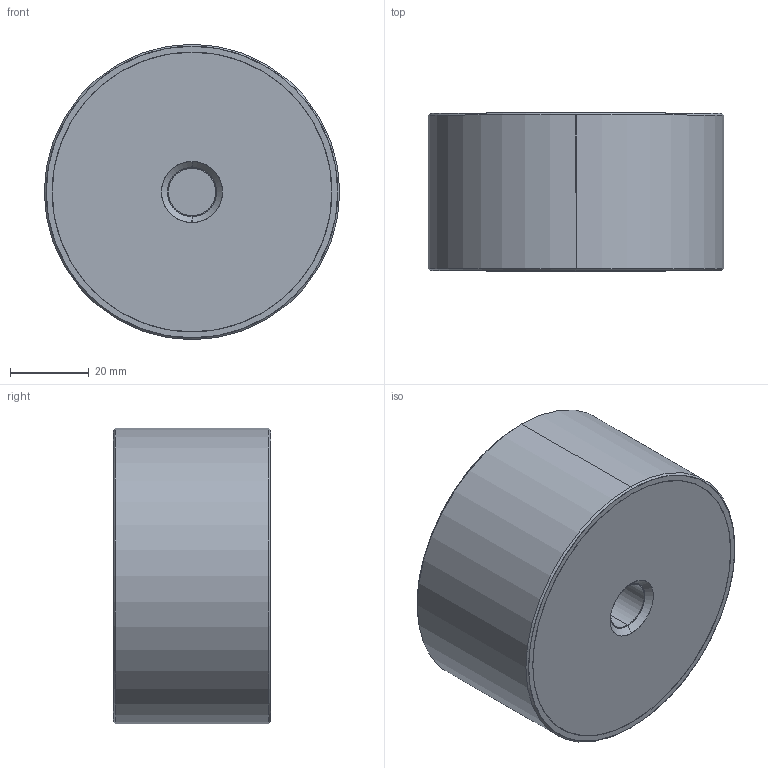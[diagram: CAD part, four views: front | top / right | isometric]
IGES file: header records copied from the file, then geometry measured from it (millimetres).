
Start section: SolidWorks IGES file using analytic representation for surfaces
Global section: file name: E:\WIXROYD 20180701\61080_v2\61080_v2_20180409_IGES\61080.W0751.igs; native system: SolidWorks 2017; preprocessor: SolidWorks 2017; author: liam_; date: 180716.214610; units: millimetre
Bounding box: 75 x 40 x 75 mm (x, y, z)
Surface area: 35652.4 mm2 (no closed solid volume)
Topology: 0 solids, 0 shells, 32 faces, 984 edges, 984 vertices
Faces by surface type: revolution 22, bspline 10
